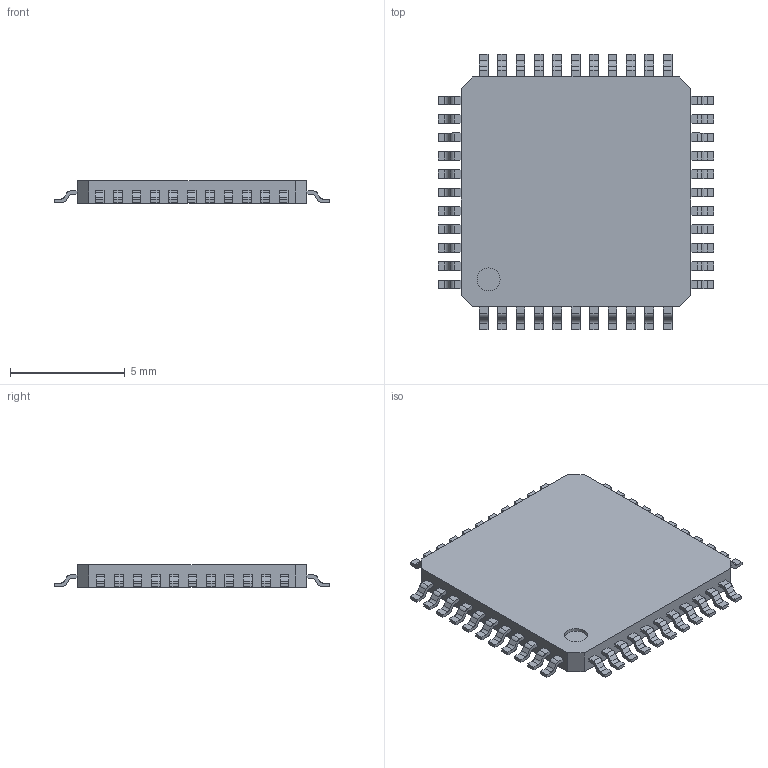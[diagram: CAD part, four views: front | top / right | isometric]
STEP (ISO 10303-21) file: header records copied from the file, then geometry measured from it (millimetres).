
FILE_DESCRIPTION (( 'STEP AP214' ), '1' );
FILE_NAME ('TQFP-44 package.STEP', '2022-05-18T03:37:02', ( 'oit' ), ( '' ), 'SwSTEP 2.0', 'SolidWorks 2021', '' );
FILE_SCHEMA (( 'AUTOMOTIVE_DESIGN' ));
Length unit declared in the file: millimetre
Products named in the file (1): TQFP-44 package
Bounding box: 12 x 12 x 1 mm (x, y, z)
Volume: 102.3 mm3; surface area: 297.3 mm2
Topology: 45 solids, 45 shells, 629 faces, 1614 edges, 1076 vertices
Faces by surface type: plane 451, cylinder 178
Entity records: 26373 total; most frequent: CARTESIAN_POINT 3320, DIRECTION 3230, ORIENTED_EDGE 3228, EDGE_CURVE 1614, VECTOR 1258, LINE 1258, VERTEX_POINT 1076, AXIS2_PLACEMENT_3D 986
